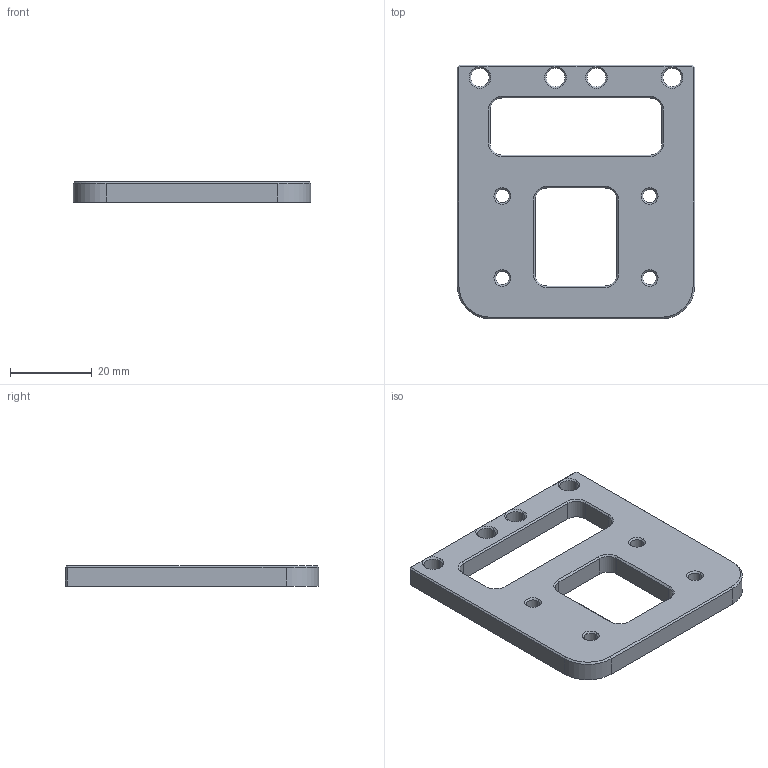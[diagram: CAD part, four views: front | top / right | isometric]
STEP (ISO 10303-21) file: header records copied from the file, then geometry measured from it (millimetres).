
FILE_DESCRIPTION (( 'STEP AP214' ), '1' );
FILE_NAME ('MAM13104 -XA- Plaque Jonction XY _ Side A.STEP', '2024-12-10T08:51:22', ( '' ), ( '' ), 'SwSTEP 2.0', 'SolidWorks 2019', '' );
FILE_SCHEMA (( 'AUTOMOTIVE_DESIGN' ));
Length unit declared in the file: millimetre
Products named in the file (1): MAM13104 -XA- Plaque Jonction XY _ Side A
Bounding box: 58 x 62 x 5 mm (x, y, z)
Volume: 12047.3 mm3; surface area: 7317 mm2
Topology: 1 solids, 1 shells, 82 faces, 212 edges, 128 vertices
Faces by surface type: plane 30, cone 26, cylinder 26
Entity records: 2556 total; most frequent: DIRECTION 456, CARTESIAN_POINT 435, ORIENTED_EDGE 424, EDGE_CURVE 212, AXIS2_PLACEMENT_3D 165, VERTEX_POINT 128, VECTOR 126, LINE 126
